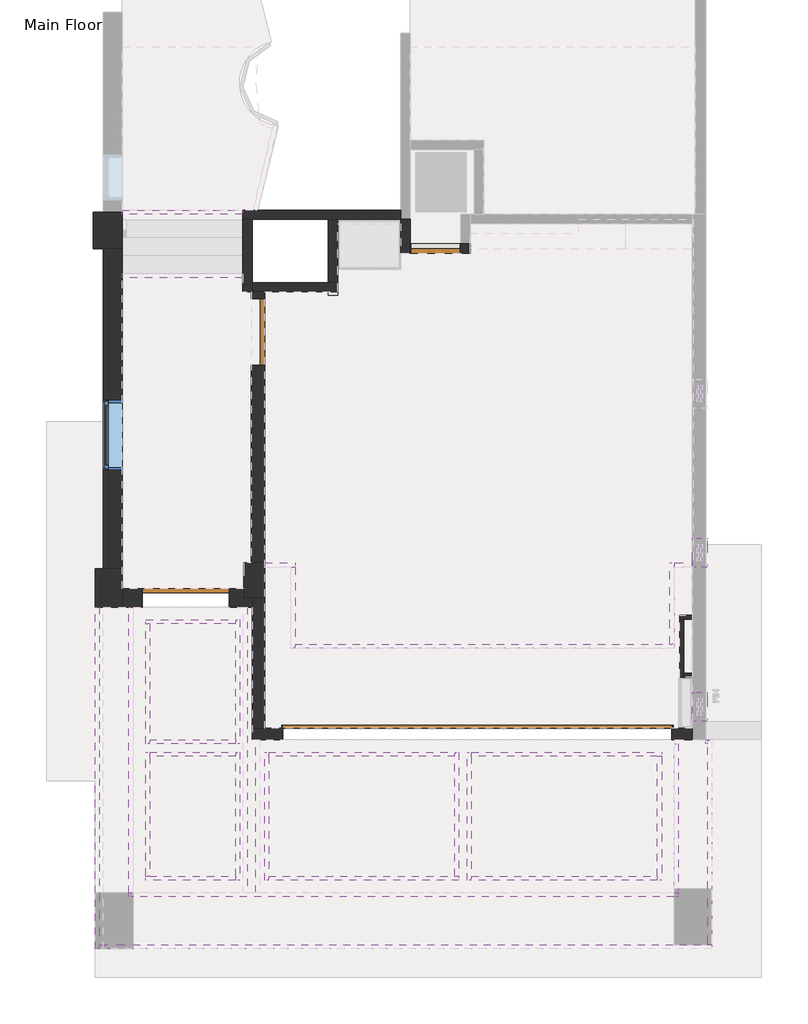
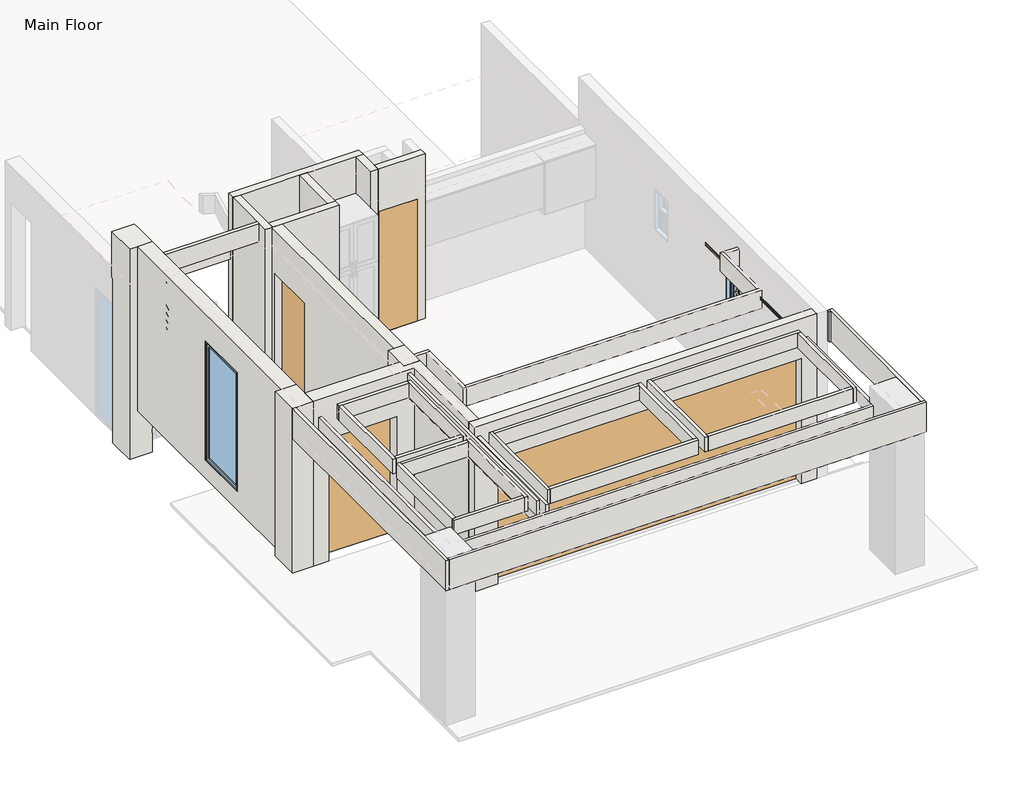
# One storey, part 1 of 4: 50 walls, 4 doors, 3 windows.
"""IFC4 building model written with IfcOpenShell, lengths in millimetres."""

from ifc_helpers import new_model, si_unit, frame, origin, place, context, project, spatial, polyline, outline, extrude, faceted_brep, transform, mapped, element, save
from components import door_f78515df, door_b2eef15f, door_8554c7b2, door_eb678732, default_1_15d17b29, default_1_8269edf3

model = new_model("IFC4")

# Units and contexts
model_context = context("Model", 3, world=origin())
ifc_project = project(units=[si_unit("LENGTHUNIT", "METRE", prefix="MILLI")], contexts=[model_context])

# Site, building, storey
site = spatial("IfcSite", under=ifc_project)
building = spatial("IfcBuilding", under=site)
storey = spatial("IfcBuildingStorey", under=building, Name="Main Floor", Elevation=0.0)

# Doors
placement = place(None, origin())
door_shape = door_f78515df(model_context)
element("IfcDoor", 1, ObjectType="Planitar - Garage Door : 15'-8\" x 6'-10\"", at=placement, inside=storey, context=model_context, shape_type="MappedRepresentation", body=[
    mapped(door_shape, transform((-1530.35, -2797.175, 762.0), x_axis=(-1.0, 0.0, 0.0), y_axis=(0.0, -1.0, 0.0), z_axis=(0.0, 0.0, 1.0))),
])
door_2_shape = door_b2eef15f(model_context)
element("IfcDoor", 2, ObjectType="Planitar - Single Door_Flush Panel : 2'-0\" x 6'-8\"", at=placement, inside=storey, context=model_context, shape_type="MappedRepresentation", body=[
    mapped(door_2_shape, transform((-2044.7, 3162.3, 762.0), x_axis=(1.0, 0.0, 0.0), y_axis=(0.0, 1.0, 0.0), z_axis=(0.0, 0.0, 1.0))),
])
door_3_shape = door_8554c7b2(model_context)
element("IfcDoor", 3, ObjectType="Planitar - Single Door_Flush Panel : 2'-8\" x 6'-8\"", at=placement, inside=storey, context=model_context, shape_type="MappedRepresentation", body=[
    mapped(door_3_shape, transform((-4222.75, 2137.56875, 762.0), x_axis=(0.0, 1.0, 0.0), y_axis=(-1.0, 0.0, 0.0), z_axis=(0.0, 0.0, 1.0))),
])
door_4_shape = door_eb678732(model_context)
element("IfcDoor", 4, ObjectType="Planitar - Single Door_Flush Panel : 3'-6\" x 6'-8\"", at=placement, inside=storey, context=model_context, shape_type="MappedRepresentation", body=[
    mapped(door_4_shape, transform((-5106.19375, -1123.95, 762.0), x_axis=(-1.0, 0.0, 0.0), y_axis=(0.0, -1.0, 0.0), z_axis=(0.0, 0.0, 1.0))),
])

# Walls
element("IfcWall", 5, ObjectType="Planitar - Generic 9\"", at=placement, inside=storey, context=model_context, shape_type="Brep", body=[
    faceted_brep([(-5886.45, -768.35, 762.0), (-5886.45, 3155.95, 762.0), (-5886.45, 3155.95, 3505.2), (-5886.45, 2851.15, 3505.2), (-5886.45, 2800.35, 3505.2), (-5886.45, -768.35, 3505.2), (-5886.45, 441.325, 1066.8), (-5886.45, 441.325, 3048.0), (-5886.45, 1304.925, 3048.0), (-5886.45, 1304.925, 1066.8), (-6115.05, 3155.95, 762.0), (-6115.05, 266.7, 762.0), (-6115.05, -768.35, 762.0), (-6115.05, -768.35, 3505.2), (-6115.05, 3155.95, 3505.2), (-6115.05, 441.325, 3048.0), (-6115.05, 441.325, 1066.8), (-6115.05, 1304.925, 1066.8), (-6115.05, 1304.925, 3048.0)], [[[0, 1, 2, 3, 4, 5], [6, 7, 8, 9]], [[10, 11, 12, 13, 14], [15, 16, 17, 18]], [[1, 0, 12, 11, 10]], [[2, 1, 10, 14]], [[5, 4, 3, 2, 14, 13]], [[0, 5, 13, 12]], [[6, 16, 15, 7]], [[7, 15, 18, 8]], [[8, 18, 17, 9]], [[16, 6, 9, 17]]]),
])
element("IfcWall", 6, ObjectType="Planitar - Generic 5 1/2\"", at=placement, inside=storey, context=model_context, shape_type="Brep", body=[
    faceted_brep([(-4292.6, -2724.15, 3505.2), (-4140.2, -2724.15, 3505.2), (1104.9, -2724.15, 3505.2), (1104.9, -2724.15, 762.0), (857.25, -2724.15, 762.0), (857.25, -2724.15, 2844.8), (-3917.95, -2724.15, 2844.8), (-3917.95, -2724.15, 762.0), (-4140.2, -2724.15, 762.0), (-4292.6, -2724.15, 762.0), (1104.9, -2863.85, 3505.2), (-4292.6, -2863.85, 3505.2), (-4292.6, -2863.85, 762.0), (-3917.95, -2863.85, 762.0), (-3917.95, -2863.85, 2844.8), (857.25, -2863.85, 2844.8), (857.25, -2863.85, 762.0), (1104.9, -2863.85, 762.0)], [[[0, 1, 2, 3, 4, 5, 6, 7, 8, 9]], [[10, 11, 12, 13, 14, 15, 16, 17]], [[3, 17, 16, 4]], [[12, 9, 8, 7, 13]], [[2, 1, 0, 11, 10]], [[3, 2, 10, 17]], [[6, 14, 13, 7]], [[14, 6, 5, 15]], [[15, 5, 4, 16]], [[9, 12, 11, 0]]]),
])
element("IfcWall", 7, ObjectType="Planitar - Generic 6\"", at=placement, inside=storey, context=model_context, shape_type="Brep", body=[
    faceted_brep([(-4140.2, -2724.15, 3505.2), (-4140.2, -2724.15, 762.0), (-4140.2, -1123.95, 762.0), (-4140.2, -1123.95, 3505.2), (-4292.6, -2724.15, 762.0), (-4292.6, -2724.15, 3505.2), (-4292.6, -1238.25, 3505.2), (-4292.6, -1123.95, 3505.2), (-4292.6, -1123.95, 762.0), (-4292.6, -1238.25, 762.0)], [[[0, 1, 2, 3]], [[4, 5, 6, 7, 8, 9]], [[2, 1, 4, 9, 8]], [[3, 2, 8, 7]], [[0, 3, 7, 6, 5]], [[0, 5, 4, 1]]]),
])
element("IfcWall", 8, ObjectType="Planitar - Generic 9\"", at=placement, inside=storey, context=model_context, shape_type="Brep", body=[
    faceted_brep([(-5886.45, -1009.65, 3505.2), (-4394.2, -1009.65, 3505.2), (-4394.2, -1009.65, 762.0), (-4572.79375, -1009.65, 762.0), (-4572.79375, -1009.65, 2794.0), (-5639.59375, -1009.65, 2794.0), (-5639.59375, -1009.65, 762.0), (-5886.45, -1009.65, 762.0), (-4292.6, -1238.25, 3505.2), (-5886.45, -1238.25, 3505.2), (-5886.45, -1238.25, 762.0), (-5639.59375, -1238.25, 762.0), (-5639.59375, -1238.25, 2794.0), (-4572.79375, -1238.25, 2794.0), (-4572.79375, -1238.25, 762.0), (-4292.6, -1238.25, 762.0), (-4394.2, -1123.95, 762.0), (-4292.6, -1123.95, 762.0), (-4292.6, -1123.95, 3505.2), (-4394.2, -1123.95, 3505.2)], [[[0, 1, 2, 3, 4, 5, 6, 7]], [[8, 9, 10, 11, 12, 13, 14, 15]], [[10, 7, 6, 11]], [[2, 16, 17, 15, 14, 3]], [[1, 0, 9, 8, 18, 19]], [[2, 1, 19, 16]], [[19, 18, 17, 16]], [[8, 15, 17, 18]], [[5, 12, 11, 6]], [[13, 4, 3, 14]], [[4, 13, 12, 5]], [[7, 10, 9, 0]]]),
])
element("IfcWall", 9, ObjectType="Planitar - Generic 1' - 1\"", at=placement, inside=storey, context=model_context, shape_type="Brep", body=[
    faceted_brep([(-5886.45, -1238.25, 3505.2), (-5886.45, -1238.25, 762.0), (-5886.45, -1009.65, 762.0), (-5886.45, -768.35, 762.0), (-5886.45, -768.35, 3505.2), (-5886.45, -1009.65, 3505.2), (-6216.65, -1238.25, 762.0), (-6216.65, -1238.25, 3009.9), (-6216.65, -1238.25, 3505.2), (-6216.65, -768.35, 3505.2), (-6216.65, -768.35, 762.0), (-6115.05, -768.35, 762.0), (-6115.05, -768.35, 3505.2), (-6165.85, -1238.25, 3505.2)], [[[0, 1, 2, 3, 4, 5]], [[6, 7, 8, 9, 10]], [[3, 2, 1, 6, 10, 11]], [[4, 3, 11, 10, 9, 12]], [[0, 5, 4, 12, 9, 8, 13]], [[0, 13, 8, 7, 6, 1]]]),
])
element("IfcWall", 10, ObjectType="Planitar - Generic 1' - 2\"", at=placement, inside=storey, context=model_context, shape_type="Brep", body=[
    faceted_brep([(-5886.45, 3155.95, 3505.2), (-5886.45, 3155.95, 762.0), (-5886.45, 3155.95, 0.0), (-5886.45, 3606.8, 0.0), (-5886.45, 3606.8, 2743.2), (-5886.45, 3638.55, 2743.2), (-5886.45, 3638.55, 3505.2), (-5886.45, 3524.25, 3505.2), (-6242.05, 3155.95, 0.0), (-6242.05, 3155.95, 3505.2), (-6242.05, 3638.55, 3505.2), (-6242.05, 3638.55, 2743.2), (-6242.05, 3606.8, 2743.2), (-6242.05, 3606.8, 0.0), (-6242.05, 3530.6, 0.0), (-5962.65, 3638.55, 3505.2), (-6115.05, 3155.95, 3505.2), (-6115.05, 3638.55, 2743.2), (-5949.95, 3638.55, 2743.2)], [[[0, 1, 2, 3, 4, 5, 6, 7]], [[8, 9, 10, 11, 12, 13, 14]], [[3, 2, 8, 14, 13]], [[0, 7, 6, 15, 10, 9, 16]], [[0, 16, 9, 8, 2, 1]], [[3, 13, 12, 4]], [[11, 17, 18, 5, 4, 12]], [[6, 5, 18, 17, 11, 10, 15]]]),
])
element("IfcWall", 11, ObjectType="Planitar - Generic 4 1/2\"", at=placement, inside=storey, context=model_context, shape_type="Brep", body=[
    faceted_brep([(-2355.85, 3105.15, 419.1), (-1619.25, 3105.15, 419.1), (-1619.25, 3105.15, 3505.2), (-2355.85, 3105.15, 3505.2), (-1739.9, 3105.15, 762.0), (-2349.5, 3105.15, 762.0), (-2349.5, 3105.15, 2794.0), (-1739.9, 3105.15, 2794.0), (-1619.25, 3219.45, 419.1), (-1733.55, 3219.45, 419.1), (-2355.85, 3219.45, 419.1), (-2355.85, 3219.45, 3505.2), (-1733.55, 3219.45, 3505.2), (-1619.25, 3219.45, 3505.2), (-2349.5, 3219.45, 762.0), (-1739.9, 3219.45, 762.0), (-1739.9, 3219.45, 2794.0), (-2349.5, 3219.45, 2794.0)], [[[0, 1, 2, 3], [4, 5, 6, 7]], [[8, 9, 10, 11, 12, 13], [14, 15, 16, 17]], [[1, 0, 10, 9, 8]], [[3, 2, 13, 12, 11]], [[0, 3, 11, 10]], [[2, 1, 8, 13]], [[14, 5, 4, 15]], [[15, 4, 7, 16]], [[5, 14, 17, 6]], [[6, 17, 16, 7]]]),
])
element("IfcWall", 12, ObjectType="Planitar - Generic 4 1/2\"", at=placement, inside=storey, context=model_context, shape_type="Brep", body=[
    faceted_brep([(-2470.15, 3632.2, 2743.2), (-2470.15, 3632.2, 0.0), (-4095.75, 3632.2, 0.0), (-4260.85, 3632.2, 0.0), (-4406.9, 3632.2, 0.0), (-4406.9, 3632.2, 2438.4), (-4406.9, 3632.2, 2743.2), (-4406.9, 3632.2, 3505.2), (-3263.9, 3632.2, 3505.2), (-3206.75, 3632.2, 3505.2), (-2355.85, 3632.2, 3505.2), (-2355.85, 3632.2, 2743.2), (-2387.6, 3632.2, 2743.2), (-2470.15, 3517.9, 0.0), (-2470.15, 3517.9, 2743.2), (-2355.85, 3517.9, 2743.2), (-2355.85, 3517.9, 3505.2), (-2470.15, 3517.9, 3505.2), (-3206.75, 3517.9, 3505.2), (-3244.85, 3517.9, 3505.2), (-3263.9, 3517.9, 3505.2), (-3359.15, 3517.9, 3505.2), (-4292.6, 3517.9, 3505.2), (-4406.9, 3517.9, 3505.2), (-4406.9, 3517.9, 0.0), (-4292.6, 3517.9, 0.0), (-4260.85, 3517.9, 0.0), (-4095.75, 3517.9, 0.0), (-3359.15, 3517.9, 0.0), (-3244.85, 3517.9, 0.0)], [[[0, 1, 2, 3, 4, 5, 6, 7, 8, 9, 10, 11, 12]], [[13, 14, 15, 16, 17, 18, 19, 20, 21, 22, 23, 24, 25, 26, 27, 28, 29]], [[4, 3, 2, 1, 13, 29, 28, 27, 26, 25, 24]], [[10, 9, 8, 7, 23, 22, 21, 20, 19, 18, 17, 16]], [[4, 24, 23, 7, 6, 5]], [[11, 15, 14, 0, 12]], [[0, 14, 13, 1]], [[11, 10, 16, 15]]]),
])
element("IfcWall", 13, ObjectType="Planitar - Generic 4 1/2\"", at=placement, inside=storey, context=model_context, shape_type="Brep", body=[
    faceted_brep([(-4406.9, 3517.9, 3505.2), (-4406.9, 3517.9, 2743.2), (-4406.9, 3517.9, 0.0), (-4406.9, 2628.9, 0.0), (-4406.9, 2628.9, 3505.2), (-4406.9, 2800.35, 3505.2), (-4406.9, 2851.15, 3505.2), (-4292.6, 3517.9, 0.0), (-4292.6, 3517.9, 3505.2), (-4292.6, 2743.2, 3505.2), (-4292.6, 2628.9, 3505.2), (-4292.6, 2628.9, 762.0), (-4292.6, 2628.9, 0.0), (-4305.3, 2628.9, 3505.2), (-4387.85, 3517.9, 3505.2)], [[[0, 1, 2, 3, 4, 5, 6]], [[7, 8, 9, 10, 11, 12]], [[3, 2, 7, 12]], [[0, 6, 5, 4, 13, 10, 9, 8, 14]], [[4, 3, 12, 11, 10, 13]], [[0, 14, 8, 7, 2, 1]]]),
])
element("IfcWall", 14, ObjectType="Planitar - Generic 4 1/2\"", at=placement, inside=storey, context=model_context, shape_type="Brep", body=[
    faceted_brep([(-4292.6, 2628.9, 762.0), (-4140.2, 2628.9, 762.0), (-3244.85, 2628.9, 762.0), (-3244.85, 2628.9, 3505.2), (-4140.2, 2628.9, 3505.2), (-4292.6, 2628.9, 3505.2), (-4292.6, 2743.2, 762.0), (-4292.6, 2743.2, 3505.2), (-3359.15, 2743.2, 3505.2), (-3244.85, 2743.2, 3505.2), (-3244.85, 2743.2, 762.0), (-3359.15, 2743.2, 762.0)], [[[0, 1, 2, 3, 4, 5]], [[6, 7, 8, 9, 10, 11]], [[2, 1, 0, 6, 11, 10]], [[5, 4, 3, 9, 8, 7]], [[0, 5, 7, 6]], [[3, 2, 10, 9]]]),
])
element("IfcWall", 15, ObjectType="Planitar - Generic 4 1/2\"", at=placement, inside=storey, context=model_context, shape_type="Brep", body=[
    faceted_brep([(-3244.85, 2590.8, 762.0), (-3244.85, 2590.8, 152.4), (-3244.85, 2590.8, 0.0), (-3244.85, 2641.6, 0.0), (-3244.85, 3517.9, 0.0), (-3244.85, 3517.9, 3505.2), (-3244.85, 2743.2, 3505.2), (-3244.85, 2743.2, 762.0), (-3244.85, 2628.9, 762.0), (-3359.15, 2590.8, 0.0), (-3359.15, 2590.8, 762.0), (-3359.15, 2705.1, 762.0), (-3359.15, 2743.2, 762.0), (-3359.15, 2743.2, 3505.2), (-3359.15, 3517.9, 3505.2), (-3359.15, 3517.9, 0.0), (-3359.15, 2705.1, 0.0), (-3352.8, 2590.8, 0.0), (-3263.9, 3517.9, 3505.2)], [[[0, 1, 2, 3, 4, 5, 6, 7, 8]], [[9, 10, 11, 12, 13, 14, 15, 16]], [[4, 3, 2, 17, 9, 16, 15]], [[6, 5, 18, 14, 13]], [[4, 15, 14, 18, 5]], [[7, 12, 11, 10, 0, 8]], [[0, 10, 9, 17, 2, 1]], [[7, 6, 13, 12]]]),
])
element("IfcWall", 16, ObjectType="Planitar - Generic 6 1/2\"", at=placement, inside=storey, context=model_context, shape_type="Brep", body=[
    faceted_brep([(-4305.3, -692.15, 3505.2), (-4305.3, 2628.9, 3505.2), (-4305.3, 2628.9, 762.0), (-4305.3, 2543.96875, 762.0), (-4305.3, 2543.96875, 2794.0), (-4305.3, 1731.16875, 2794.0), (-4305.3, 1731.16875, 762.0), (-4305.3, -692.15, 762.0), (-4140.2, 2628.9, 3505.2), (-4140.2, -692.15, 3505.2), (-4140.2, -692.15, 762.0), (-4140.2, 1731.16875, 762.0), (-4140.2, 1731.16875, 2794.0), (-4140.2, 2543.96875, 2794.0), (-4140.2, 2543.96875, 762.0), (-4140.2, 2628.9, 762.0), (-4292.6, 2628.9, 762.0), (-4292.6, 2628.9, 3505.2)], [[[0, 1, 2, 3, 4, 5, 6, 7]], [[8, 9, 10, 11, 12, 13, 14, 15]], [[2, 16, 15, 14, 3]], [[10, 7, 6, 11]], [[1, 0, 9, 8, 17]], [[2, 1, 17, 8, 15, 16]], [[13, 4, 3, 14]], [[4, 13, 12, 5]], [[5, 12, 11, 6]], [[7, 10, 9, 0]]]),
])
element("IfcWall", 17, ObjectType="Planitar - Generic 10\"", at=placement, inside=storey, context=model_context, shape_type="Brep", body=[
    faceted_brep([(-4394.2, -692.15, 762.0), (-4394.2, -1009.65, 762.0), (-4394.2, -1123.95, 762.0), (-4394.2, -1123.95, 3505.2), (-4394.2, -1009.65, 3505.2), (-4394.2, -692.15, 3505.2), (-4140.2, -692.15, 762.0), (-4140.2, -692.15, 3505.2), (-4140.2, -1123.95, 3505.2), (-4140.2, -1123.95, 762.0), (-4305.3, -692.15, 762.0), (-4292.6, -1123.95, 762.0), (-4292.6, -1123.95, 3505.2), (-4305.3, -692.15, 3505.2)], [[[0, 1, 2, 3, 4, 5]], [[6, 7, 8, 9]], [[2, 1, 0, 10, 6, 9, 11]], [[5, 4, 3, 12, 8, 7, 13]], [[0, 5, 13, 7, 6, 10]], [[2, 11, 9, 8, 12, 3]]]),
])
element("IfcWall", 18, ObjectType="Planitar - Generic 4 1/2\"", at=placement, inside=storey, context=model_context, shape_type="Brep", body=[
    faceted_brep([(-2470.15, 3517.9, 3505.2), (-2470.15, 3517.9, 2743.2), (-2470.15, 3517.9, 317.5), (-2470.15, 3105.15, 317.5), (-2470.15, 3105.15, 3505.2), (-2355.85, 3517.9, 317.5), (-2355.85, 3517.9, 2743.2), (-2355.85, 3517.9, 3505.2), (-2355.85, 3219.45, 3505.2), (-2355.85, 3105.15, 3505.2), (-2355.85, 3105.15, 419.1), (-2355.85, 3105.15, 317.5)], [[[0, 1, 2, 3, 4]], [[5, 6, 7, 8, 9, 10, 11]], [[3, 2, 5, 11]], [[0, 4, 9, 8, 7]], [[4, 3, 11, 10, 9]], [[0, 7, 6, 5, 2, 1]]]),
])
element("IfcWall", 19, ObjectType="Planitar - Generic 2\"", at=placement, inside=storey, context=model_context, shape_type="Brep", body=[
    faceted_brep([(1104.9, -1334.7007105, 762.0), (952.5, -1334.7007105, 762.0), (952.5, -1334.7007105, 1320.8), (1104.9, -1334.7007105, 1320.8), (1104.9, -1385.5007105, 762.0), (1104.9, -1385.5007105, 1320.8), (1003.3, -1385.5007105, 1320.8), (952.5, -1385.5007105, 1320.8), (952.5, -1385.5007105, 762.0), (1003.3, -1385.5007105, 762.0)], [[[0, 1, 2, 3]], [[4, 5, 6, 7, 8, 9]], [[1, 0, 4, 9, 8]], [[3, 2, 7, 6, 5]], [[0, 3, 5, 4]], [[2, 1, 8, 7]]]),
])
element("IfcWall", 20, ObjectType="Planitar - Generic 2\"", at=placement, inside=storey, context=model_context, shape_type="Brep", body=[
    faceted_brep([(952.5, -1385.5007105, 762.0), (952.5, -2096.7007105, 762.0), (952.5, -2096.7007105, 1320.8), (952.5, -1385.5007105, 1320.8), (1003.3, -1385.5007105, 762.0), (1003.3, -1385.5007105, 1320.8), (1003.3, -2045.9007105, 1320.8), (1003.3, -2096.7007105, 1320.8), (1003.3, -2096.7007105, 762.0), (1003.3, -2045.9007105, 762.0)], [[[0, 1, 2, 3]], [[4, 5, 6, 7, 8, 9]], [[1, 0, 4, 9, 8]], [[3, 2, 7, 6, 5]], [[0, 3, 5, 4]], [[2, 1, 8, 7]]]),
])
element("IfcWall", 21, ObjectType="Planitar - Generic 2\"", at=placement, inside=storey, context=model_context, shape_type="SweptSolid", body=[
    extrude(outline(polyline([(1104.9, -2096.7007105), (1003.3, -2096.7007105), (1003.3, -2045.9007105), (1104.9, -2045.9007105), (1104.9, -2096.7007105)])), frame((0.0, 0.0, 762.0), z_axis=(0.0, 0.0, 1.0), x_axis=(1.0, 0.0, 0.0)), (0.0, 0.0, 1.0), 558.8),
])
element("IfcWall", 22, ObjectType="Planitar - Generic 2\"", at=placement, inside=storey, context=model_context, shape_type="Brep", body=[
    faceted_brep([(-4140.2, -746.125, 2997.2), (-3816.35, -746.125, 2997.2), (-3765.55, -746.125, 2997.2), (-3765.55, -746.125, 3302.0), (-3816.35, -746.125, 3302.0), (-4140.2, -746.125, 3302.0), (-4140.2, -695.325, 2997.2), (-4140.2, -695.325, 3302.0), (-3765.55, -695.325, 3302.0), (-3765.55, -695.325, 2997.2)], [[[0, 1, 2, 3, 4, 5]], [[6, 7, 8, 9]], [[2, 1, 0, 6, 9]], [[5, 4, 3, 8, 7]], [[0, 5, 7, 6]], [[3, 2, 9, 8]]]),
])
element("IfcWall", 23, ObjectType="Planitar - Generic 2\"", at=placement, inside=storey, context=model_context, shape_type="Brep", body=[
    faceted_brep([(-3816.35, -746.125, 2997.2), (-3816.35, -1743.6060556, 2997.2), (-3816.35, -1743.6060556, 3302.0), (-3816.35, -746.125, 3302.0), (-3765.55, -746.125, 2997.2), (-3765.55, -746.125, 3302.0), (-3765.55, -1692.8060556, 3302.0), (-3765.55, -1743.6060556, 3302.0), (-3765.55, -1743.6060556, 2997.2), (-3765.55, -1692.8060556, 2997.2)], [[[0, 1, 2, 3]], [[4, 5, 6, 7, 8, 9]], [[1, 0, 4, 9, 8]], [[3, 2, 7, 6, 5]], [[0, 3, 5, 4]], [[2, 1, 8, 7]]]),
])
element("IfcWall", 24, ObjectType="Planitar - Generic 2\"", at=placement, inside=storey, context=model_context, shape_type="Brep", body=[
    faceted_brep([(-3765.55, -1743.6060556, 2997.2), (882.65, -1743.6060556, 2997.2), (882.65, -1743.6060556, 3302.0), (-3765.55, -1743.6060556, 3302.0), (-3765.55, -1692.8060556, 2997.2), (-3765.55, -1692.8060556, 3302.0), (831.85, -1692.8060556, 3302.0), (882.65, -1692.8060556, 3302.0), (882.65, -1692.8060556, 2997.2), (831.85, -1692.8060556, 2997.2)], [[[0, 1, 2, 3]], [[4, 5, 6, 7, 8, 9]], [[1, 0, 4, 9, 8]], [[3, 2, 7, 6, 5]], [[0, 3, 5, 4]], [[2, 1, 8, 7]]]),
])
element("IfcWall", 25, ObjectType="Planitar - Generic 2\"", at=placement, inside=storey, context=model_context, shape_type="Brep", body=[
    faceted_brep([(882.65, -1692.8060556, 2997.2), (882.65, -746.125, 2997.2), (882.65, -695.325, 2997.2), (882.65, -695.325, 3302.0), (882.65, -746.125, 3302.0), (882.65, -1692.8060556, 3302.0), (831.85, -1692.8060556, 2997.2), (831.85, -1692.8060556, 3302.0), (831.85, -695.325, 3302.0), (831.85, -695.325, 2997.2)], [[[0, 1, 2, 3, 4, 5]], [[6, 7, 8, 9]], [[2, 1, 0, 6, 9]], [[5, 4, 3, 8, 7]], [[0, 5, 7, 6]], [[3, 2, 9, 8]]]),
])
element("IfcWall", 26, ObjectType="Planitar - Generic 2\"", at=placement, inside=storey, context=model_context, shape_type="SweptSolid", body=[
    extrude(outline(polyline([(1104.9, -746.125), (882.65, -746.125), (882.65, -695.325), (1104.9, -695.325), (1104.9, -746.125)])), frame((0.0, 0.0, 2997.2), z_axis=(0.0, 0.0, 1.0), x_axis=(1.0, 0.0, 0.0)), (0.0, 0.0, 1.0), 304.8),
])
element("IfcWall", 27, ObjectType="Planitar - Generic 2\"", at=placement, inside=storey, context=model_context, shape_type="SweptSolid", body=[
    extrude(outline(polyline([(-5886.45, 3632.2), (-4406.9, 3632.2), (-4406.9, 3581.4), (-5886.45, 3581.4), (-5886.45, 3632.2)])), frame((0.0, 0.0, 2438.4), z_axis=(0.0, 0.0, 1.0), x_axis=(1.0, 0.0, 0.0)), (0.0, 0.0, 1.0), 304.8),
])
element("IfcWall", 28, ObjectType="Planitar - Generic 2\"", at=placement, inside=storey, context=model_context, shape_type="SweptSolid", body=[
    extrude(outline(polyline([(-4406.9, 2800.35), (-5886.45, 2800.35), (-5886.45, 2851.15), (-4406.9, 2851.15), (-4406.9, 2800.35)])), frame((0.0, 0.0, 3200.4), z_axis=(0.0, 0.0, 1.0), x_axis=(1.0, 0.0, 0.0)), (0.0, 0.0, 1.0), 304.8),
])
element("IfcWall", 29, ObjectType="Planitar - Generic 2\"", at=placement, inside=storey, context=model_context, shape_type="SweptSolid", body=[
    extrude(outline(polyline([(-5802.807422, -4740.4040809), (-5802.807422, -1238.25), (-5752.007422, -1238.25), (-5752.007422, -4740.4040809), (-5802.807422, -4740.4040809)])), frame((0.0, 0.0, 3009.9), z_axis=(0.0, 0.0, 1.0), x_axis=(1.0, 0.0, 0.0)), (0.0, 0.0, 1.0), 203.2),
])
element("IfcWall", 30, ObjectType="Planitar - Generic 2\"", at=placement, inside=storey, context=model_context, shape_type="Brep", body=[
    faceted_brep([(-5802.807422, -4791.2040809, 3009.9), (-5752.007422, -4791.2040809, 3009.9), (882.65, -4791.2040809, 3009.9), (933.45, -4791.2040809, 3009.9), (933.45, -4791.2040809, 3213.1), (882.65, -4791.2040809, 3213.1), (-5752.007422, -4791.2040809, 3213.1), (-5802.807422, -4791.2040809, 3213.1), (-5802.807422, -4740.4040809, 3009.9), (-5802.807422, -4740.4040809, 3213.1), (-5752.007422, -4740.4040809, 3213.1), (882.65, -4740.4040809, 3213.1), (933.45, -4740.4040809, 3213.1), (933.45, -4740.4040809, 3009.9), (882.65, -4740.4040809, 3009.9), (-5752.007422, -4740.4040809, 3009.9)], [[[0, 1, 2, 3, 4, 5, 6, 7]], [[8, 9, 10, 11, 12, 13, 14, 15]], [[3, 2, 1, 0, 8, 15, 14, 13]], [[7, 6, 5, 4, 12, 11, 10, 9]], [[4, 3, 13, 12]], [[0, 7, 9, 8]]]),
])
element("IfcWall", 31, ObjectType="Planitar - Generic 2\"", at=placement, inside=storey, context=model_context, shape_type="Brep", body=[
    faceted_brep([(933.45, -4740.4040809, 3009.9), (933.45, -4692.65, 3009.9), (933.45, -2911.6040809, 3009.9), (933.45, -2911.6040809, 3213.1), (933.45, -4692.65, 3213.1), (933.45, -4740.4040809, 3213.1), (882.65, -4740.4040809, 3009.9), (882.65, -4740.4040809, 3213.1), (882.65, -4692.65, 3213.1), (882.65, -2911.6040809, 3213.1), (882.65, -2911.6040809, 3009.9), (882.65, -4692.65, 3009.9)], [[[0, 1, 2, 3, 4, 5]], [[6, 7, 8, 9, 10, 11]], [[2, 1, 0, 6, 11, 10]], [[3, 2, 10, 9]], [[5, 4, 3, 9, 8, 7]], [[0, 5, 7, 6]]]),
])
element("IfcWall", 32, ObjectType="Planitar - Generic 2\"", at=placement, inside=storey, context=model_context, shape_type="SweptSolid", body=[
    extrude(outline(polyline([(-4399.9496784, -4740.4040809), (-4399.9496784, -1238.25), (-4349.1496784, -1238.25), (-4349.1496784, -4740.4040809), (-4399.9496784, -4740.4040809)])), frame((0.0, 0.0, 3213.1), z_axis=(0.0, 0.0, 1.0), x_axis=(1.0, 0.0, 0.0)), (0.0, 0.0, 1.0), 241.3),
])
element("IfcWall", 33, ObjectType="Planitar - Generic 2\"", at=placement, inside=storey, context=model_context, shape_type="SweptSolid", body=[
    extrude(outline(polyline([(-4495.8, -2914.65), (-5548.807422, -2914.65), (-5548.807422, -2863.85), (-4495.8, -2863.85), (-4495.8, -2914.65)])), frame((0.0, 0.0, 3213.1), z_axis=(0.0, 0.0, 1.0), x_axis=(1.0, 0.0, 0.0)), (0.0, 0.0, 1.0), 241.3),
])
element("IfcWall", 34, ObjectType="Planitar - Generic 2\"", at=placement, inside=storey, context=model_context, shape_type="Brep", body=[
    faceted_brep([(-4445.0, -2914.65, 3213.1), (-4445.0, -1390.65, 3213.1), (-4445.0, -1390.65, 3454.4), (-4445.0, -2914.65, 3454.4), (-4495.8, -2914.65, 3213.1), (-4495.8, -2914.65, 3454.4), (-4495.8, -2863.85, 3454.4), (-4495.8, -1441.45, 3454.4), (-4495.8, -1390.65, 3454.4), (-4495.8, -1390.65, 3213.1), (-4495.8, -1441.45, 3213.1), (-4495.8, -2863.85, 3213.1)], [[[0, 1, 2, 3]], [[4, 5, 6, 7, 8, 9, 10, 11]], [[1, 0, 4, 11, 10, 9]], [[3, 2, 8, 7, 6, 5]], [[2, 1, 9, 8]], [[0, 3, 5, 4]]]),
])
element("IfcWall", 35, ObjectType="Planitar - Generic 2\"", at=placement, inside=storey, context=model_context, shape_type="Brep", body=[
    faceted_brep([(-4495.8, -1390.65, 3213.1), (-5599.607422, -1390.65, 3213.1), (-5599.607422, -1390.65, 3454.4), (-4495.8, -1390.65, 3454.4), (-4495.8, -1441.45, 3213.1), (-4495.8, -1441.45, 3454.4), (-5548.807422, -1441.45, 3454.4), (-5599.607422, -1441.45, 3454.4), (-5599.607422, -1441.45, 3213.1), (-5548.807422, -1441.45, 3213.1)], [[[0, 1, 2, 3]], [[4, 5, 6, 7, 8, 9]], [[1, 0, 4, 9, 8]], [[3, 2, 7, 6, 5]], [[0, 3, 5, 4]], [[2, 1, 8, 7]]]),
])
element("IfcWall", 36, ObjectType="Planitar - Generic 2\"", at=placement, inside=storey, context=model_context, shape_type="Brep", body=[
    faceted_brep([(-5599.607422, -1441.45, 3213.1), (-5599.607422, -2914.65, 3213.1), (-5599.607422, -2914.65, 3454.4), (-5599.607422, -1441.45, 3454.4), (-5548.807422, -1441.45, 3213.1), (-5548.807422, -1441.45, 3454.4), (-5548.807422, -2863.85, 3454.4), (-5548.807422, -2914.65, 3454.4), (-5548.807422, -2914.65, 3213.1), (-5548.807422, -2863.85, 3213.1)], [[[0, 1, 2, 3]], [[4, 5, 6, 7, 8, 9]], [[1, 0, 4, 9, 8]], [[3, 2, 7, 6, 5]], [[0, 3, 5, 4]], [[2, 1, 8, 7]]]),
])
element("IfcWall", 37, ObjectType="Planitar - Generic 2\"", at=placement, inside=storey, context=model_context, shape_type="Brep", body=[
    faceted_brep([(-4495.8, -3016.25, 3213.1), (-4495.8, -3067.05, 3213.1), (-4495.8, -4537.2040809, 3213.1), (-4495.8, -4588.0040809, 3213.1), (-4495.8, -4588.0040809, 3454.4), (-4495.8, -4537.2040809, 3454.4), (-4495.8, -3067.05, 3454.4), (-4495.8, -3016.25, 3454.4), (-4445.0, -3016.25, 3213.1), (-4445.0, -3016.25, 3454.4), (-4445.0, -4588.0040809, 3454.4), (-4445.0, -4588.0040809, 3213.1)], [[[0, 1, 2, 3, 4, 5, 6, 7]], [[8, 9, 10, 11]], [[3, 2, 1, 0, 8, 11]], [[7, 6, 5, 4, 10, 9]], [[4, 3, 11, 10]], [[0, 7, 9, 8]]]),
])
element("IfcWall", 38, ObjectType="Planitar - Generic 2\"", at=placement, inside=storey, context=model_context, shape_type="Brep", body=[
    faceted_brep([(-4495.8, -4537.2040809, 3213.1), (-5548.807422, -4537.2040809, 3213.1), (-5599.607422, -4537.2040809, 3213.1), (-5599.607422, -4537.2040809, 3454.4), (-5548.807422, -4537.2040809, 3454.4), (-4495.8, -4537.2040809, 3454.4), (-4495.8, -4588.0040809, 3213.1), (-4495.8, -4588.0040809, 3454.4), (-5599.607422, -4588.0040809, 3454.4), (-5599.607422, -4588.0040809, 3213.1)], [[[0, 1, 2, 3, 4, 5]], [[6, 7, 8, 9]], [[2, 1, 0, 6, 9]], [[5, 4, 3, 8, 7]], [[0, 5, 7, 6]], [[3, 2, 9, 8]]]),
])
element("IfcWall", 39, ObjectType="Planitar - Generic 2\"", at=placement, inside=storey, context=model_context, shape_type="Brep", body=[
    faceted_brep([(-5548.807422, -4537.2040809, 3213.1), (-5548.807422, -3067.05, 3213.1), (-5548.807422, -3016.25, 3213.1), (-5548.807422, -3016.25, 3454.4), (-5548.807422, -3067.05, 3454.4), (-5548.807422, -4537.2040809, 3454.4), (-5599.607422, -4537.2040809, 3213.1), (-5599.607422, -4537.2040809, 3454.4), (-5599.607422, -3016.25, 3454.4), (-5599.607422, -3016.25, 3213.1)], [[[0, 1, 2, 3, 4, 5]], [[6, 7, 8, 9]], [[2, 1, 0, 6, 9]], [[5, 4, 3, 8, 7]], [[0, 5, 7, 6]], [[3, 2, 9, 8]]]),
])
element("IfcWall", 40, ObjectType="Planitar - Generic 2\"", at=placement, inside=storey, context=model_context, shape_type="SweptSolid", body=[
    extrude(outline(polyline([(-4495.8, -3067.05), (-5548.807422, -3067.05), (-5548.807422, -3016.25), (-4495.8, -3016.25), (-4495.8, -3067.05)])), frame((0.0, 0.0, 3213.1), z_axis=(0.0, 0.0, 1.0), x_axis=(1.0, 0.0, 0.0)), (0.0, 0.0, 1.0), 241.3),
])
element("IfcWall", 41, ObjectType="Planitar - Generic 2\"", at=placement, inside=storey, context=model_context, shape_type="Brep", body=[
    faceted_brep([(-4140.2, -3016.25, 3213.1), (-4140.2, -4588.0040809, 3213.1), (-4140.2, -4588.0040809, 3454.4), (-4140.2, -3016.25, 3454.4), (-4089.4, -3016.25, 3213.1), (-4089.4, -3016.25, 3454.4), (-4089.4, -3067.05, 3454.4), (-4089.4, -4537.2040809, 3454.4), (-4089.4, -4588.0040809, 3454.4), (-4089.4, -4588.0040809, 3213.1), (-4089.4, -4537.2040809, 3213.1), (-4089.4, -3067.05, 3213.1)], [[[0, 1, 2, 3]], [[4, 5, 6, 7, 8, 9, 10, 11]], [[1, 0, 4, 11, 10, 9]], [[3, 2, 8, 7, 6, 5]], [[2, 1, 9, 8]], [[0, 3, 5, 4]]]),
])
element("IfcWall", 42, ObjectType="Planitar - Generic 2\"", at=placement, inside=storey, context=model_context, shape_type="Brep", body=[
    faceted_brep([(-4089.4, -4588.0040809, 3213.1), (-1755.775, -4588.0040809, 3213.1), (-1755.775, -4588.0040809, 3454.4), (-4089.4, -4588.0040809, 3454.4), (-4089.4, -4537.2040809, 3213.1), (-4089.4, -4537.2040809, 3454.4), (-1806.575, -4537.2040809, 3454.4), (-1755.775, -4537.2040809, 3454.4), (-1755.775, -4537.2040809, 3213.1), (-1806.575, -4537.2040809, 3213.1)], [[[0, 1, 2, 3]], [[4, 5, 6, 7, 8, 9]], [[1, 0, 4, 9, 8]], [[3, 2, 7, 6, 5]], [[0, 3, 5, 4]], [[2, 1, 8, 7]]]),
])
element("IfcWall", 43, ObjectType="Planitar - Generic 2\"", at=placement, inside=storey, context=model_context, shape_type="Brep", body=[
    faceted_brep([(-1755.775, -4537.2040809, 3213.1), (-1755.775, -3016.25, 3213.1), (-1755.775, -3016.25, 3454.4), (-1755.775, -4537.2040809, 3454.4), (-1806.575, -4537.2040809, 3213.1), (-1806.575, -4537.2040809, 3454.4), (-1806.575, -3067.05, 3454.4), (-1806.575, -3016.25, 3454.4), (-1806.575, -3016.25, 3213.1), (-1806.575, -3067.05, 3213.1)], [[[0, 1, 2, 3]], [[4, 5, 6, 7, 8, 9]], [[1, 0, 4, 9, 8]], [[3, 2, 7, 6, 5]], [[0, 3, 5, 4]], [[2, 1, 8, 7]]]),
])
element("IfcWall", 44, ObjectType="Planitar - Generic 2\"", at=placement, inside=storey, context=model_context, shape_type="SweptSolid", body=[
    extrude(outline(polyline([(-4089.4, -3016.25), (-1806.575, -3016.25), (-1806.575, -3067.05), (-4089.4, -3067.05), (-4089.4, -3016.25)])), frame((0.0, 0.0, 3213.1), z_axis=(0.0, 0.0, 1.0), x_axis=(1.0, 0.0, 0.0)), (0.0, 0.0, 1.0), 241.3),
])
element("IfcWall", 45, ObjectType="Planitar - Generic 2\"", at=placement, inside=storey, context=model_context, shape_type="Brep", body=[
    faceted_brep([(-1603.375, -4588.0040809, 3213.1), (-1603.375, -4537.2040809, 3213.1), (-1603.375, -3067.05, 3213.1), (-1603.375, -3016.25, 3213.1), (-1603.375, -3016.25, 3454.4), (-1603.375, -3067.05, 3454.4), (-1603.375, -4537.2040809, 3454.4), (-1603.375, -4588.0040809, 3454.4), (-1654.175, -4588.0040809, 3213.1), (-1654.175, -4588.0040809, 3454.4), (-1654.175, -3016.25, 3454.4), (-1654.175, -3016.25, 3213.1)], [[[0, 1, 2, 3, 4, 5, 6, 7]], [[8, 9, 10, 11]], [[3, 2, 1, 0, 8, 11]], [[7, 6, 5, 4, 10, 9]], [[4, 3, 11, 10]], [[0, 7, 9, 8]]]),
])
element("IfcWall", 46, ObjectType="Planitar - Generic 2\"", at=placement, inside=storey, context=model_context, shape_type="Brep", body=[
    faceted_brep([(-1603.375, -3067.05, 3213.1), (679.45, -3067.05, 3213.1), (730.25, -3067.05, 3213.1), (730.25, -3067.05, 3454.4), (679.45, -3067.05, 3454.4), (-1603.375, -3067.05, 3454.4), (-1603.375, -3016.25, 3213.1), (-1603.375, -3016.25, 3454.4), (730.25, -3016.25, 3454.4), (730.25, -3016.25, 3213.1)], [[[0, 1, 2, 3, 4, 5]], [[6, 7, 8, 9]], [[2, 1, 0, 6, 9]], [[5, 4, 3, 8, 7]], [[0, 5, 7, 6]], [[3, 2, 9, 8]]]),
])
element("IfcWall", 47, ObjectType="Planitar - Generic 2\"", at=placement, inside=storey, context=model_context, shape_type="Brep", body=[
    faceted_brep([(679.45, -3067.05, 3213.1), (679.45, -4537.2040809, 3213.1), (679.45, -4588.0040809, 3213.1), (679.45, -4588.0040809, 3454.4), (679.45, -4537.2040809, 3454.4), (679.45, -3067.05, 3454.4), (730.25, -3067.05, 3213.1), (730.25, -3067.05, 3454.4), (730.25, -4588.0040809, 3454.4), (730.25, -4588.0040809, 3213.1)], [[[0, 1, 2, 3, 4, 5]], [[6, 7, 8, 9]], [[2, 1, 0, 6, 9]], [[5, 4, 3, 8, 7]], [[0, 5, 7, 6]], [[3, 2, 9, 8]]]),
])
element("IfcWall", 48, ObjectType="Planitar - Generic 2\"", at=placement, inside=storey, context=model_context, shape_type="SweptSolid", body=[
    extrude(outline(polyline([(-1603.375, -4537.2040809), (679.45, -4537.2040809), (679.45, -4588.0040809), (-1603.375, -4588.0040809), (-1603.375, -4537.2040809)])), frame((0.0, 0.0, 3213.1), z_axis=(0.0, 0.0, 1.0), x_axis=(1.0, 0.0, 0.0)), (0.0, 0.0, 1.0), 241.3),
])
element("IfcWall", 49, ObjectType="Planitar - Generic 2\"", at=placement, inside=storey, context=model_context, shape_type="SweptSolid", body=[
    extrude(outline(polyline([(-4399.9496784, -4740.4040809), (-4399.9496784, -1238.25), (-4349.1496784, -1238.25), (-4349.1496784, -4740.4040809), (-4399.9496784, -4740.4040809)])), frame((0.0, 0.0, 3060.7), z_axis=(0.0, 0.0, 1.0), x_axis=(1.0, 0.0, 0.0)), (0.0, 0.0, 1.0), 272.2820621),
])
element("IfcWall", 50, ObjectType="Planitar - Generic 2\"", at=placement, inside=storey, context=model_context, shape_type="SweptSolid", body=[
    extrude(outline(polyline([(-4247.5496784, -4740.4040809), (-4247.5496784, -2863.85), (-4196.7496784, -2863.85), (-4196.7496784, -4740.4040809), (-4247.5496784, -4740.4040809)])), frame((0.0, 0.0, 3060.7), z_axis=(0.0, 0.0, 1.0), x_axis=(1.0, 0.0, 0.0)), (0.0, 0.0, 1.0), 272.2820621),
])
element("IfcWall", 51, ObjectType="Planitar - Generic 2\"", at=placement, inside=storey, context=model_context, shape_type="Brep", body=[
    faceted_brep([(-6216.65, -1238.25, 3009.9), (-6216.65, -4740.4040809, 3009.9), (-6216.65, -5429.25, 3009.9), (-6216.65, -5429.25, 3505.2), (-6216.65, -1238.25, 3505.2), (-6165.85, -1238.25, 3009.9), (-6165.85, -1238.25, 3505.2), (-6165.85, -5378.45, 3505.2), (-6165.85, -5429.25, 3505.2), (-6165.85, -5429.25, 3009.9), (-6165.85, -5378.45, 3009.9), (-6165.85, -4740.4040809, 3009.9)], [[[0, 1, 2, 3, 4]], [[5, 6, 7, 8, 9, 10, 11]], [[2, 1, 0, 5, 11, 10, 9]], [[4, 3, 8, 7, 6]], [[0, 4, 6, 5]], [[3, 2, 9, 8]]]),
])
element("IfcWall", 52, ObjectType="Planitar - Generic 2\"", at=placement, inside=storey, context=model_context, shape_type="Brep", body=[
    faceted_brep([(-6165.85, -5429.25, 3009.9), (-5752.007422, -5429.25, 3009.9), (1347.292578, -5429.25, 3009.9), (1347.292578, -5429.25, 3505.2), (-6165.85, -5429.25, 3505.2), (-6165.85, -5378.45, 3009.9), (-6165.85, -5378.45, 3492.5), (-6165.85, -5378.45, 3505.2), (1296.492578, -5378.45, 3505.2), (1347.292578, -5378.45, 3505.2), (1347.292578, -5378.45, 3009.9), (1296.492578, -5378.45, 3009.9), (-5752.007422, -5378.45, 3009.9)], [[[0, 1, 2, 3, 4]], [[5, 6, 7, 8, 9, 10, 11, 12]], [[2, 1, 0, 5, 12, 11, 10]], [[4, 3, 9, 8, 7]], [[3, 2, 10, 9]], [[0, 4, 7, 6, 5]]]),
])
element("IfcWall", 53, ObjectType="Planitar - Generic 2\"", at=placement, inside=storey, context=model_context, shape_type="Brep", body=[
    faceted_brep([(1347.292578, -5378.45, 3009.9), (1347.292578, -2863.85, 3009.9), (1347.292578, -2863.85, 3505.2), (1347.292578, -5378.45, 3505.2), (1296.492578, -5378.45, 3009.9), (1296.492578, -5378.45, 3492.5), (1296.492578, -5378.45, 3505.2), (1296.492578, -2863.85, 3505.2), (1296.492578, -2863.85, 3009.9), (1296.492578, -4692.65, 3009.9), (1339.85, -5378.45, 3009.9)], [[[0, 1, 2, 3]], [[4, 5, 6, 7, 8, 9]], [[1, 0, 10, 4, 9, 8]], [[2, 1, 8, 7]], [[3, 2, 7, 6]], [[0, 3, 6, 5, 4, 10]]]),
])
element("IfcWall", 54, ObjectType="Planitar - Generic 2\"", at=placement, inside=storey, context=model_context, shape_type="SweptSolid", body=[
    extrude(outline(polyline([(1270.0, -2863.85), (1296.492578, -2863.85), (1296.492578, -2914.65), (1270.0, -2914.65), (1270.0, -2863.85)])), frame((0.0, 0.0, 3009.9), z_axis=(0.0, 0.0, 1.0), x_axis=(1.0, 0.0, 0.0)), (0.0, 0.0, 1.0), 495.3),
])

# Windows
default_1_shape = default_1_15d17b29(model_context)
element("IfcWindow", 55, ObjectType="Planitar-Double-Hung-Single : Default 1", at=placement, inside=storey, context=model_context, shape_type="MappedRepresentation", body=[
    mapped(default_1_shape, transform((1187.45, -568.325, 1320.8), x_axis=(0.0, -1.0, 0.0), y_axis=(1.0, 0.0, 0.0), z_axis=(0.0, 0.0, 1.0))),
])
element("IfcWindow", 56, ObjectType="Planitar-Double-Hung-Single : Default 1", at=placement, inside=storey, context=model_context, shape_type="MappedRepresentation", body=[
    mapped(default_1_shape, transform((1187.45, -2459.0375, 1320.8), x_axis=(0.0, -1.0, 0.0), y_axis=(1.0, 0.0, 0.0), z_axis=(0.0, 0.0, 1.0))),
])
default_1_2_shape = default_1_8269edf3(model_context)
element("IfcWindow", 57, ObjectType="Planitar-Fixed : Default 1", at=placement, inside=storey, context=model_context, shape_type="MappedRepresentation", body=[
    mapped(default_1_2_shape, transform((-5987.75, 873.125, 152.4), x_axis=(0.0, 1.0, 0.0), y_axis=(-1.0, 0.0, 0.0), z_axis=(0.0, 0.0, 1.0))),
])

save(model, "model.ifc")
